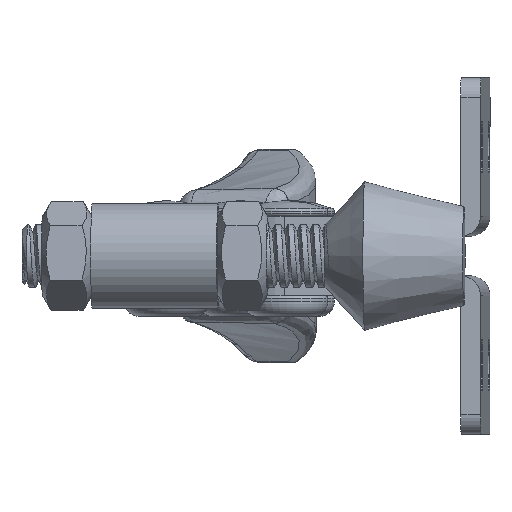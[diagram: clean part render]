
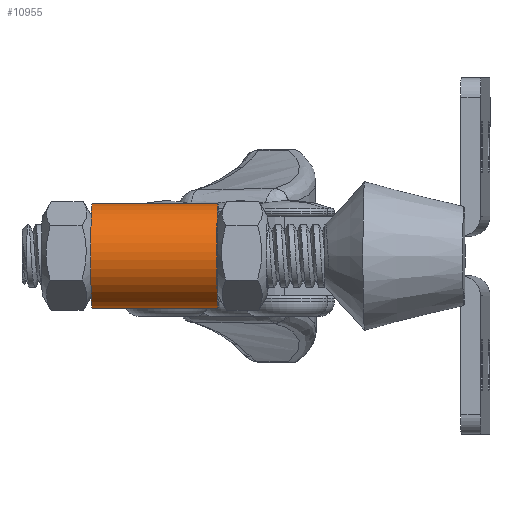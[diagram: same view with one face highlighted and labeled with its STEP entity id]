
A CAD part, left-side view. The second image highlights one B-rep face of the part: STEP entity #10955.
In plain terms, the highlighted cylindrical face has radius 5.25 mm (diameter 10.5 mm), a partial arc.
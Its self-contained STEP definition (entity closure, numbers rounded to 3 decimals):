
#227=CYLINDRICAL_SURFACE('',#11614,5.25);
#364=CIRCLE('',#11603,5.25);
#365=CIRCLE('',#11605,5.25);
#1276=FACE_OUTER_BOUND('',#1909,.T.);
#1909=EDGE_LOOP('',(#9446,#9447,#9448,#9449));
#2756=LINE('',#38686,#3605);
#2757=LINE('',#38691,#3606);
#3605=VECTOR('',#13253,1000.);
#3606=VECTOR('',#13262,1000.);
#5112=VERTEX_POINT('',#38657);
#5113=VERTEX_POINT('',#38659);
#5118=VERTEX_POINT('',#38670);
#5119=VERTEX_POINT('',#38672);
#6597=EDGE_CURVE('',#5113,#5112,#364,.T.);
#6603=EDGE_CURVE('',#5118,#5119,#365,.T.);
#6611=EDGE_CURVE('',#5113,#5118,#2756,.T.);
#6613=EDGE_CURVE('',#5112,#5119,#2757,.T.);
#9446=ORIENTED_EDGE('',*,*,#6597,.T.);
#9447=ORIENTED_EDGE('',*,*,#6613,.T.);
#9448=ORIENTED_EDGE('',*,*,#6603,.F.);
#9449=ORIENTED_EDGE('',*,*,#6611,.F.);
#10955=ADVANCED_FACE('',(#1276),#227,.T.);
#11603=AXIS2_PLACEMENT_3D('',#38660,#13228,#13229);
#11605=AXIS2_PLACEMENT_3D('',#38673,#13237,#13238);
#11614=AXIS2_PLACEMENT_3D('',#38690,#13260,#13261);
#13228=DIRECTION('center_axis',(0.,1.,0.));
#13229=DIRECTION('ref_axis',(-1.,0.,0.));
#13237=DIRECTION('center_axis',(0.,1.,0.));
#13238=DIRECTION('ref_axis',(-1.,0.,0.));
#13253=DIRECTION('',(0.,1.,0.));
#13260=DIRECTION('center_axis',(0.,1.,0.));
#13261=DIRECTION('ref_axis',(-1.,0.,0.));
#13262=DIRECTION('',(0.,1.,0.));
#38657=CARTESIAN_POINT('',(-10.4,-6.35,9.25));
#38659=CARTESIAN_POINT('',(-10.4,-6.35,1.25));
#38660=CARTESIAN_POINT('Origin',(-13.8,-6.35,5.25));
#38670=CARTESIAN_POINT('',(-10.4,6.35,1.25));
#38672=CARTESIAN_POINT('',(-10.4,6.35,9.25));
#38673=CARTESIAN_POINT('Origin',(-13.8,6.35,5.25));
#38686=CARTESIAN_POINT('',(-10.4,-6.35,1.25));
#38690=CARTESIAN_POINT('Origin',(-13.8,-6.35,5.25));
#38691=CARTESIAN_POINT('',(-10.4,-6.35,9.25));
